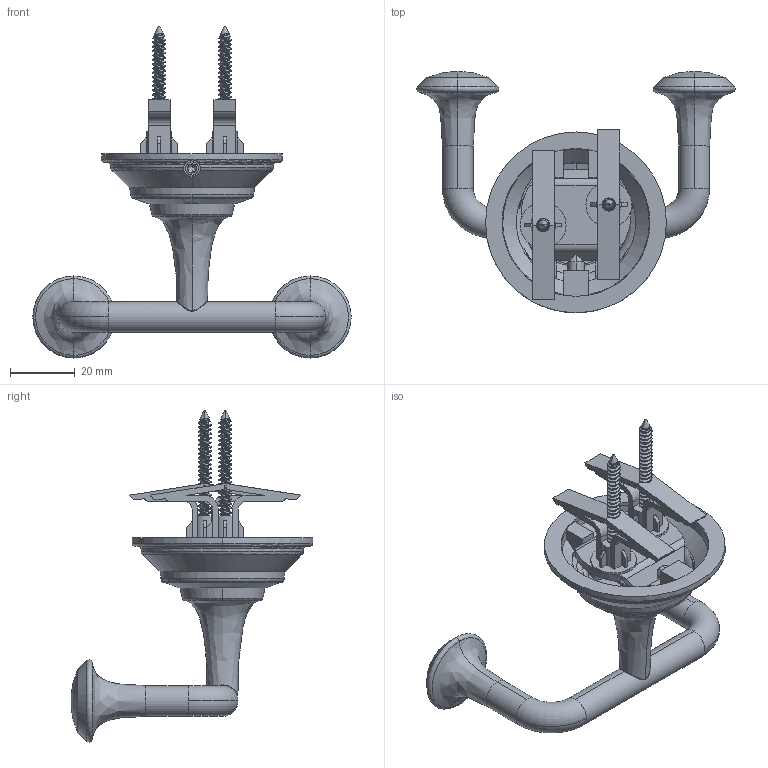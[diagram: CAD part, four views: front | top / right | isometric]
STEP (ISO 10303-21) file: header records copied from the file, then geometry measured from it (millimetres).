
FILE_DESCRIPTION (( 'STEP AP214' ), '1' );
FILE_NAME ('583DRH.STEP', '2025-01-06T01:22:10', ( '' ), ( '' ), 'SwSTEP 2.0', 'SolidWorks 2023', '' );
FILE_SCHEMA (( 'AUTOMOTIVE_DESIGN' ));
Length unit declared in the file: inch
Products named in the file (1): 583DRH
Bounding box: 98.36 x 74.75 x 102.59 mm (x, y, z)
Surface area: 21367.8 mm2 (no closed solid volume)
Topology: 0 solids, 13 shells, 393 faces, 1224 edges, 823 vertices
Faces by surface type: cylinder 138, plane 118, bspline 63, torus 37, cone 33, sphere 4
Entity records: 38053 total; most frequent: CARTESIAN_POINT 28290, ORIENTED_EDGE 2222, DIRECTION 1631, EDGE_CURVE 1222, VERTEX_POINT 823, AXIS2_PLACEMENT_3D 614, B_SPLINE_CURVE_WITH_KNOTS 536, EDGE_LOOP 411
